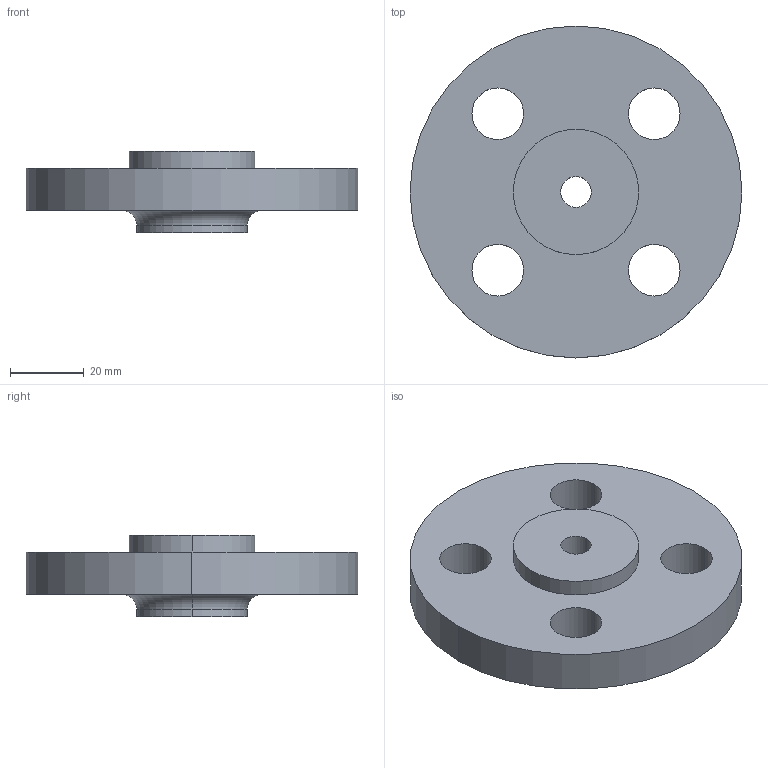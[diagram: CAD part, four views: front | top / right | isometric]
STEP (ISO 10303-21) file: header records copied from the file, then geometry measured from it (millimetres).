
FILE_DESCRIPTION (( 'STEP AP214' ), '1' );
FILE_NAME ('PN40 DN10 Type 13 - Type E Face.STEP', '2018-12-29T03:57:56', ( '' ), ( '' ), 'SwSTEP 2.0', 'SolidWorks 2019', '' );
FILE_SCHEMA (( 'AUTOMOTIVE_DESIGN' ));
Length unit declared in the file: millimetre
Products named in the file (1): PN40 DN10 Type 13 - Type E Face
Bounding box: 90 x 90 x 22 mm (x, y, z)
Volume: 73536.1 mm3; surface area: 18126.8 mm2
Topology: 1 solids, 1 shells, 22 faces, 52 edges, 34 vertices
Faces by surface type: cylinder 16, plane 4, torus 2
Entity records: 710 total; most frequent: DIRECTION 134, CARTESIAN_POINT 109, ORIENTED_EDGE 104, AXIS2_PLACEMENT_3D 59, EDGE_CURVE 52, CIRCLE 36, VERTEX_POINT 34, EDGE_LOOP 34
